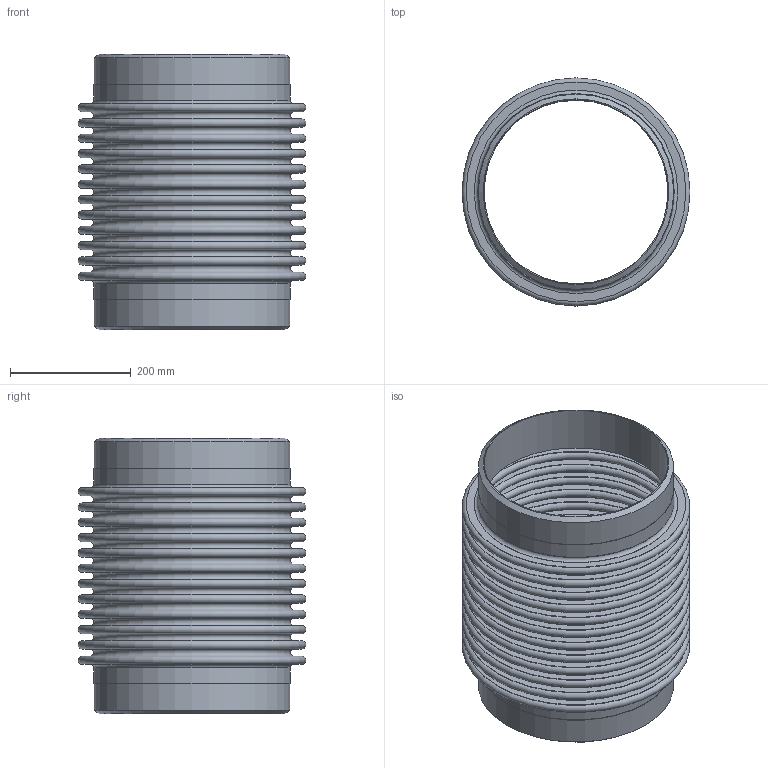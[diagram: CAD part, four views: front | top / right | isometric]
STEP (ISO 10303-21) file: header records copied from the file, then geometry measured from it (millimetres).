
FILE_DESCRIPTION(/* description */ ('EXPANSION JOINT,SINGLE, WELD ENDS,4 INCH NOMINAL'),/* implementation_level */ '2;1');
FILE_NAME(/* name */ 'ASSEMBLY US-12-12-85L.stp',/* time_stamp */ '2026-07-30T08:45:27-05:00',/* author */ ('jorgef'),/* organization */ (''),/* preprocessor_version */ 'ST-DEVELOPER v20.1',/* originating_system */ 'Autodesk Inventor 2026',/* authorisation */ '');
FILE_SCHEMA (('AUTOMOTIVE_DESIGN { 1 0 10303 214 3 1 1 }'));
Length unit declared in the file: inch
Products named in the file (3): ASSEMBLY  US-12-12-85L; STOCK BELLOW - US-12-12-85L; PIPE- US-12-12-85L
Assembly tree (3 placements, depth 2):
  ASSEMBLY  US-12-12-85L
    STOCK BELLOW - US-12-12-85L
    PIPE- US-12-12-85L  x2
Bounding box: 377.82 x 377.82 x 457.2 mm (x, y, z)
Volume: 2238452.5 mm3; surface area: 2202489 mm2
Topology: 5 solids, 5 shells, 118 faces, 180 edges, 121 vertices
Faces by surface type: plane 58, torus 50, cylinder 8, cone 2
Full cylindrical faces by diameter (mm): 304.8 x2, 323.85 x4, 325.679 x2
Entity records: 2769 total; most frequent: DIRECTION 573, CARTESIAN_POINT 405, ORIENTED_EDGE 342, AXIS2_PLACEMENT_3D 283, EDGE_CURVE 171, EDGE_LOOP 169, CIRCLE 164, VERTEX_POINT 114
